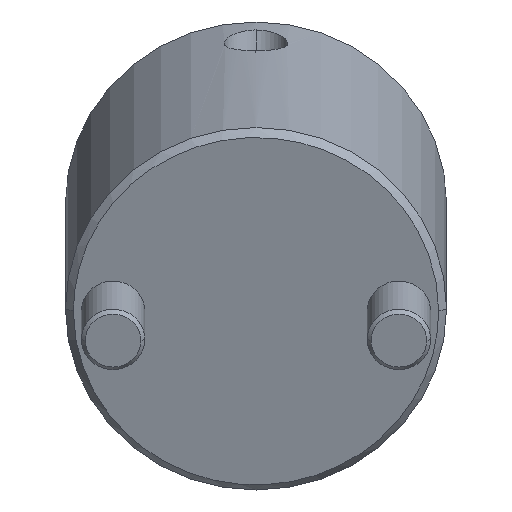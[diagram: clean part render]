
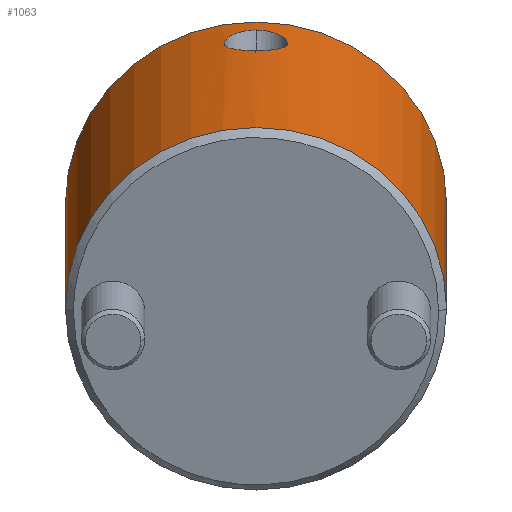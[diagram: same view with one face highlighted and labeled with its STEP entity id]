
A CAD part, front view. The second image highlights one B-rep face of the part: STEP entity #1063.
In plain terms, the highlighted cylindrical face has radius 24 mm (diameter 48 mm), a partial arc.
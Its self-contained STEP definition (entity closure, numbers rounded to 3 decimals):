
#808=CARTESIAN_POINT('Vertex',(0.,24.,1.)) ;
#811=CARTESIAN_POINT('Axis2P3D Location',(0.,0.,1.)) ;
#815=CARTESIAN_POINT('Vertex',(0.,-24.,1.)) ;
#967=CARTESIAN_POINT('Axis2P3D Location',(0.,0.,-2.25)) ;
#972=CARTESIAN_POINT('Line Origine',(0.,24.,-2.25)) ;
#976=CARTESIAN_POINT('Vertex',(0.,24.,44.)) ;
#979=CARTESIAN_POINT('Axis2P3D Location',(0.,0.,44.)) ;
#983=CARTESIAN_POINT('Vertex',(0.,-24.,44.)) ;
#986=CARTESIAN_POINT('Line Origine',(0.,-24.,-2.25)) ;
#998=CARTESIAN_POINT('Control Point',(24.,0.,40.754)) ;
#999=CARTESIAN_POINT('Control Point',(24.,0.378,40.754)) ;
#1000=CARTESIAN_POINT('Control Point',(23.993,0.75,40.705)) ;
#1001=CARTESIAN_POINT('Control Point',(23.978,1.114,40.608)) ;
#1002=CARTESIAN_POINT('Control Point',(23.937,1.819,40.324)) ;
#1003=CARTESIAN_POINT('Control Point',(23.878,2.446,39.872)) ;
#1004=CARTESIAN_POINT('Control Point',(23.845,2.743,39.599)) ;
#1005=CARTESIAN_POINT('Control Point',(23.795,3.142,39.132)) ;
#1006=CARTESIAN_POINT('Control Point',(23.75,3.455,38.601)) ;
#1007=CARTESIAN_POINT('Control Point',(23.736,3.55,38.417)) ;
#1008=CARTESIAN_POINT('Control Point',(23.711,3.718,38.039)) ;
#1009=CARTESIAN_POINT('Control Point',(23.691,3.842,37.645)) ;
#1010=CARTESIAN_POINT('Control Point',(23.682,3.893,37.444)) ;
#1011=CARTESIAN_POINT('Control Point',(23.669,3.971,37.04)) ;
#1012=CARTESIAN_POINT('Control Point',(23.664,4.003,36.628)) ;
#1013=CARTESIAN_POINT('Control Point',(23.663,4.007,36.425)) ;
#1014=CARTESIAN_POINT('Control Point',(23.668,3.98,35.712)) ;
#1015=CARTESIAN_POINT('Control Point',(23.696,3.811,35.025)) ;
#1016=CARTESIAN_POINT('Control Point',(23.727,3.621,34.566)) ;
#1017=CARTESIAN_POINT('Control Point',(23.795,3.162,33.804)) ;
#1018=CARTESIAN_POINT('Control Point',(23.87,2.517,33.198)) ;
#1019=CARTESIAN_POINT('Control Point',(23.903,2.199,32.968)) ;
#1020=CARTESIAN_POINT('Control Point',(23.953,1.587,32.628)) ;
#1021=CARTESIAN_POINT('Control Point',(23.985,0.917,32.43)) ;
#1022=CARTESIAN_POINT('Control Point',(23.995,0.614,32.371)) ;
#1023=CARTESIAN_POINT('Control Point',(24.,0.308,32.342)) ;
#1024=CARTESIAN_POINT('Control Point',(24.,0.,32.342)) ;
#1025=CARTESIAN_POINT('Vertex',(24.,0.,40.754)) ;
#1027=CARTESIAN_POINT('Vertex',(24.,0.,32.342)) ;
#1031=CARTESIAN_POINT('Control Point',(24.,0.,32.342)) ;
#1032=CARTESIAN_POINT('Control Point',(24.,-0.489,32.342)) ;
#1033=CARTESIAN_POINT('Control Point',(23.988,-0.97,32.415)) ;
#1034=CARTESIAN_POINT('Control Point',(23.963,-1.444,32.563)) ;
#1035=CARTESIAN_POINT('Control Point',(23.909,-2.15,32.911)) ;
#1036=CARTESIAN_POINT('Control Point',(23.844,-2.746,33.416)) ;
#1037=CARTESIAN_POINT('Control Point',(23.819,-2.952,33.626)) ;
#1038=CARTESIAN_POINT('Control Point',(23.754,-3.447,34.235)) ;
#1039=CARTESIAN_POINT('Control Point',(23.701,-3.784,34.952)) ;
#1040=CARTESIAN_POINT('Control Point',(23.677,-3.928,35.431)) ;
#1041=CARTESIAN_POINT('Control Point',(23.654,-4.06,36.347)) ;
#1042=CARTESIAN_POINT('Control Point',(23.673,-3.95,37.271)) ;
#1043=CARTESIAN_POINT('Control Point',(23.689,-3.855,37.674)) ;
#1044=CARTESIAN_POINT('Control Point',(23.723,-3.646,38.258)) ;
#1045=CARTESIAN_POINT('Control Point',(23.767,-3.341,38.798)) ;
#1046=CARTESIAN_POINT('Control Point',(23.782,-3.23,38.971)) ;
#1047=CARTESIAN_POINT('Control Point',(23.814,-2.988,39.302)) ;
#1048=CARTESIAN_POINT('Control Point',(23.847,-2.712,39.6)) ;
#1049=CARTESIAN_POINT('Control Point',(23.863,-2.568,39.737)) ;
#1050=CARTESIAN_POINT('Control Point',(23.894,-2.267,39.993)) ;
#1051=CARTESIAN_POINT('Control Point',(23.922,-1.942,40.207)) ;
#1052=CARTESIAN_POINT('Control Point',(23.935,-1.774,40.304)) ;
#1053=CARTESIAN_POINT('Control Point',(23.965,-1.34,40.52)) ;
#1054=CARTESIAN_POINT('Control Point',(23.986,-0.878,40.664)) ;
#1055=CARTESIAN_POINT('Control Point',(23.995,-0.59,40.724)) ;
#1056=CARTESIAN_POINT('Control Point',(24.,-0.297,40.754)) ;
#1057=CARTESIAN_POINT('Control Point',(24.,0.,40.754)) ;
#812=DIRECTION('Axis2P3D Direction',(0.,0.,1.)) ;
#968=DIRECTION('Axis2P3D Direction',(0.,-0.,1.)) ;
#969=DIRECTION('Axis2P3D XDirection',(0.,-1.,0.)) ;
#973=DIRECTION('Vector Direction',(0.,0.,1.)) ;
#980=DIRECTION('Axis2P3D Direction',(0.,-0.,1.)) ;
#987=DIRECTION('Vector Direction',(0.,0.,1.)) ;
#813=AXIS2_PLACEMENT_3D('Circle Axis2P3D',#811,#812,$) ;
#970=AXIS2_PLACEMENT_3D('Cylinder Axis2P3D',#967,#968,#969) ;
#981=AXIS2_PLACEMENT_3D('Circle Axis2P3D',#979,#980,$) ;
#992=ORIENTED_EDGE('',*,*,#978,.F.) ;
#993=ORIENTED_EDGE('',*,*,#985,.T.) ;
#994=ORIENTED_EDGE('',*,*,#990,.T.) ;
#995=ORIENTED_EDGE('',*,*,#817,.F.) ;
#1060=ORIENTED_EDGE('',*,*,#1029,.T.) ;
#1061=ORIENTED_EDGE('',*,*,#1058,.T.) ;
#1062=FACE_BOUND('',#1059,.T.) ;
#974=VECTOR('Line Direction',#973,1.) ;
#988=VECTOR('Line Direction',#987,1.) ;
#1063=ADVANCED_FACE('MANIFOLD_SOLID_BREP #1138',(#996,#1062),#971,.T.) ;
#997=B_SPLINE_CURVE_WITH_KNOTS('',5,(#998,#999,#1000,#1001,#1002,#1003,#1004,#1005,#1006,#1007,#1008,#1009,#1010,#1011,#1012,#1013,#1014,#1015,#1016,#1017,#1018,#1019,#1020,#1021,#1022,#1023,#1024),.UNSPECIFIED.,.F.,.U.,(6,3,3,3,3,3,3,3,6),(0.,2.703,5.517,6.943,8.372,9.781,13.286,16.075,18.275),.UNSPECIFIED.) ;
#1030=B_SPLINE_CURVE_WITH_KNOTS('',5,(#1031,#1032,#1033,#1034,#1035,#1036,#1037,#1038,#1039,#1040,#1041,#1042,#1043,#1044,#1045,#1046,#1047,#1048,#1049,#1050,#1051,#1052,#1053,#1054,#1055,#1056,#1057),.UNSPECIFIED.,.F.,.U.,(6,3,3,3,3,3,3,3,6),(0.,3.487,5.583,9.086,11.927,13.351,14.762,16.158,18.278),.UNSPECIFIED.) ;
#814=CIRCLE('generated circle',#813,24.) ;
#982=CIRCLE('generated circle',#981,24.) ;
#971=CYLINDRICAL_SURFACE('generated cylinder',#970,24.) ;
#817=EDGE_CURVE('',#809,#816,#814,.F.) ;
#978=EDGE_CURVE('',#977,#809,#975,.F.) ;
#985=EDGE_CURVE('',#977,#984,#982,.F.) ;
#990=EDGE_CURVE('',#984,#816,#989,.F.) ;
#1029=EDGE_CURVE('',#1026,#1028,#997,.T.) ;
#1058=EDGE_CURVE('',#1028,#1026,#1030,.T.) ;
#991=EDGE_LOOP('',(#992,#993,#994,#995)) ;
#1059=EDGE_LOOP('',(#1060,#1061)) ;
#996=FACE_OUTER_BOUND('',#991,.T.) ;
#975=LINE('Line',#972,#974) ;
#989=LINE('Line',#986,#988) ;
#809=VERTEX_POINT('',#808) ;
#816=VERTEX_POINT('',#815) ;
#977=VERTEX_POINT('',#976) ;
#984=VERTEX_POINT('',#983) ;
#1026=VERTEX_POINT('',#1025) ;
#1028=VERTEX_POINT('',#1027) ;
